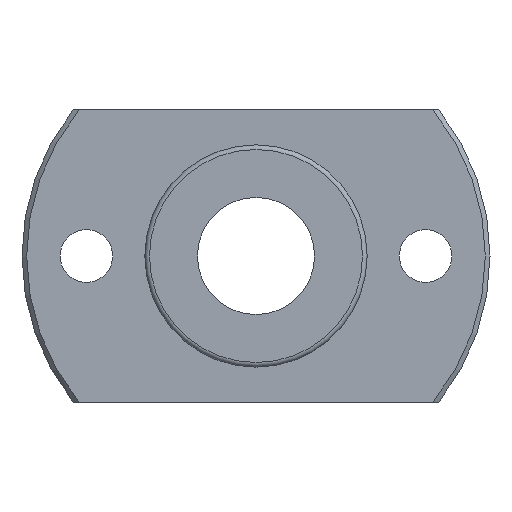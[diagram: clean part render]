
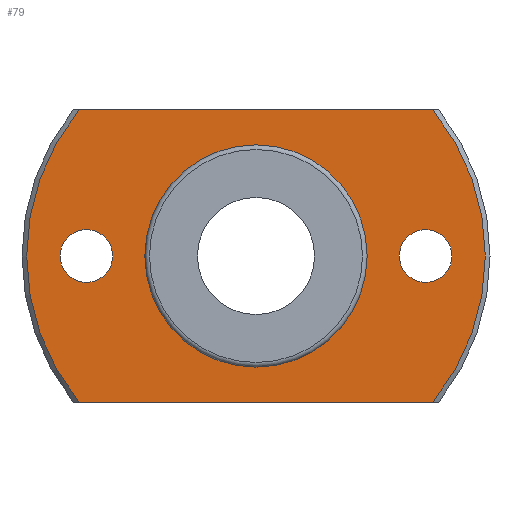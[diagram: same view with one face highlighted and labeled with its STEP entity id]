
A CAD part, left-side view. The second image highlights one B-rep face of the part: STEP entity #79.
In plain terms, the highlighted planar face has unit normal (-1, 0, 0).
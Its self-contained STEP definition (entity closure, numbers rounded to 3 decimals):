
#79=ADVANCED_FACE('',(#115,#116,#117,#118),#119,.T.);
#115=FACE_BOUND('',#192,.T.);
#116=FACE_BOUND('',#193,.T.);
#117=FACE_BOUND('',#194,.T.);
#118=FACE_OUTER_BOUND('',#195,.T.);
#119=PLANE('',#196);
#192=EDGE_LOOP('',(#277));
#193=EDGE_LOOP('',(#278));
#194=EDGE_LOOP('',(#279));
#195=EDGE_LOOP('',(#280,#281,#282,#283));
#196=AXIS2_PLACEMENT_3D('',#284,#285,#286);
#277=ORIENTED_EDGE('',*,*,#430,.F.);
#278=ORIENTED_EDGE('',*,*,#431,.T.);
#279=ORIENTED_EDGE('',*,*,#432,.T.);
#280=ORIENTED_EDGE('',*,*,#433,.T.);
#281=ORIENTED_EDGE('',*,*,#434,.T.);
#282=ORIENTED_EDGE('',*,*,#435,.T.);
#283=ORIENTED_EDGE('',*,*,#436,.T.);
#284=CARTESIAN_POINT('',(-6.0,14.425,0.0));
#285=DIRECTION('',(-1.0,0.0,0.));
#286=DIRECTION('',(0.,0.0,1.0));
#430=EDGE_CURVE('',#478,#478,#479,.T.);
#431=EDGE_CURVE('',#480,#480,#481,.T.);
#432=EDGE_CURVE('',#482,#482,#483,.T.);
#433=EDGE_CURVE('',#484,#485,#486,.T.);
#434=EDGE_CURVE('',#485,#487,#488,.T.);
#435=EDGE_CURVE('',#487,#489,#490,.T.);
#436=EDGE_CURVE('',#489,#484,#491,.T.);
#478=VERTEX_POINT('',#558);
#479=CIRCLE('',#559,9.25);
#480=VERTEX_POINT('',#560);
#481=CIRCLE('',#561,2.25);
#482=VERTEX_POINT('',#562);
#483=CIRCLE('',#563,2.25);
#484=VERTEX_POINT('',#564);
#485=VERTEX_POINT('',#565);
#486=CIRCLE('',#566,19.6);
#487=VERTEX_POINT('',#567);
#488=LINE('',#568,#569);
#489=VERTEX_POINT('',#570);
#490=CIRCLE('',#571,19.6);
#491=LINE('',#572,#573);
#558=CARTESIAN_POINT('',(-6.0,9.25,0.0));
#559=AXIS2_PLACEMENT_3D('',#674,#675,#676);
#560=CARTESIAN_POINT('',(-6.0,14.5,2.25));
#561=AXIS2_PLACEMENT_3D('',#677,#678,#679);
#562=CARTESIAN_POINT('',(-6.0,-14.5,2.25));
#563=AXIS2_PLACEMENT_3D('',#680,#681,#682);
#564=CARTESIAN_POINT('',(-6.0,15.097,12.5));
#565=CARTESIAN_POINT('',(-6.0,15.097,-12.5));
#566=AXIS2_PLACEMENT_3D('',#683,#684,#685);
#567=CARTESIAN_POINT('',(-6.0,-15.097,-12.5));
#568=CARTESIAN_POINT('',(-6.0,14.425,-12.5));
#569=VECTOR('',#686,1.0);
#570=CARTESIAN_POINT('',(-6.0,-15.097,12.5));
#571=AXIS2_PLACEMENT_3D('',#687,#688,#689);
#572=CARTESIAN_POINT('',(-6.0,14.425,12.5));
#573=VECTOR('',#690,1.0);
#674=CARTESIAN_POINT('',(-6.0,0.0,0.0));
#675=DIRECTION('',(-1.0,0.0,0.));
#676=DIRECTION('',(0.0,1.0,0.0));
#677=CARTESIAN_POINT('',(-6.0,14.5,0.0));
#678=DIRECTION('',(1.0,0.0,0.));
#679=DIRECTION('',(0.,0.0,-1.0));
#680=CARTESIAN_POINT('',(-6.0,-14.5,0.0));
#681=DIRECTION('',(1.0,0.0,0.));
#682=DIRECTION('',(0.,0.0,-1.0));
#683=CARTESIAN_POINT('',(-6.0,0.0,0.0));
#684=DIRECTION('',(-1.0,0.0,0.));
#685=DIRECTION('',(0.0,1.0,0.0));
#686=DIRECTION('',(0.0,-1.0,0.0));
#687=CARTESIAN_POINT('',(-6.0,0.0,0.0));
#688=DIRECTION('',(-1.0,0.0,0.));
#689=DIRECTION('',(0.0,1.0,0.0));
#690=DIRECTION('',(0.0,1.0,0.0));
